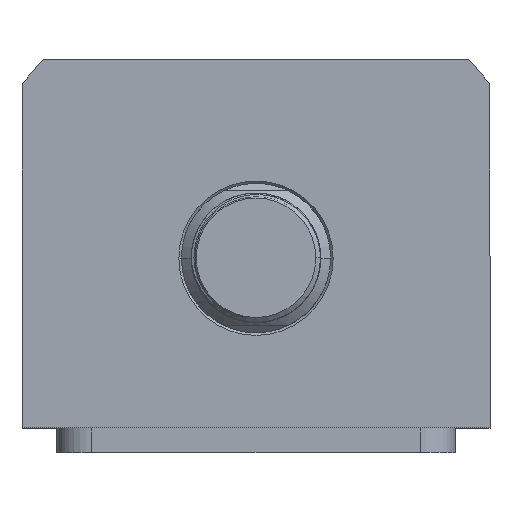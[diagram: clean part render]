
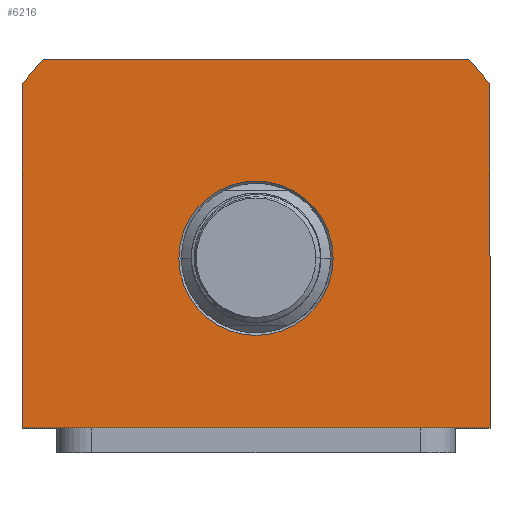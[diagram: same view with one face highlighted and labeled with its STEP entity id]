
A CAD part, top view. The second image highlights one B-rep face of the part: STEP entity #6216.
In plain terms, the highlighted planar face has unit normal (0, 0, 1).
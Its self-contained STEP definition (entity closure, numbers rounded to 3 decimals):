
#495 = VERTEX_POINT ( 'NONE', #11985 ) ;
#762 = LINE ( 'NONE', #18549, #1716 ) ;
#827 = CARTESIAN_POINT ( 'NONE',  ( 42.688, 40., 42.5 ) ) ;
#994 = AXIS2_PLACEMENT_3D ( 'NONE', #16903, #9028, #4498 ) ;
#1116 = CIRCLE ( 'NONE', #994, 58.5 ) ;
#1154 = ORIENTED_EDGE ( 'NONE', *, *, #18902, .T. ) ;
#1314 = DIRECTION ( 'NONE',  ( 1., 0., 0. ) ) ;
#1498 = DIRECTION ( 'NONE',  ( 1., 0., 0. ) ) ;
#1627 = CARTESIAN_POINT ( 'NONE',  ( 0., 0., 42.5 ) ) ;
#1716 = VECTOR ( 'NONE', #12225, 1000. ) ;
#1790 = FACE_BOUND ( 'NONE', #11175, .T. ) ;
#2148 = DIRECTION ( 'NONE',  ( 1., 0., 0. ) ) ;
#2173 = CARTESIAN_POINT ( 'NONE',  ( -47., -34., 42.5 ) ) ;
#2236 = LINE ( 'NONE', #8132, #10096 ) ;
#3530 = CARTESIAN_POINT ( 'NONE',  ( -42.688, 40., 42.5 ) ) ;
#3719 = CIRCLE ( 'NONE', #11581, 15.5 ) ;
#3899 = ORIENTED_EDGE ( 'NONE', *, *, #9227, .T. ) ;
#4071 = ORIENTED_EDGE ( 'NONE', *, *, #11487, .T. ) ;
#4477 = EDGE_CURVE ( 'NONE', #19364, #14779, #8036, .T. ) ;
#4498 = DIRECTION ( 'NONE',  ( 1., 0., 0. ) ) ;
#5515 = EDGE_CURVE ( 'NONE', #19225, #6217, #3719, .T. ) ;
#5577 = VECTOR ( 'NONE', #17267, 1000. ) ;
#5877 = EDGE_CURVE ( 'NONE', #19528, #19364, #13478, .T. ) ;
#6216 = ADVANCED_FACE ( 'NONE', ( #1790, #11801 ), #12949, .T. ) ;
#6217 = VERTEX_POINT ( 'NONE', #13130 ) ;
#6997 = CARTESIAN_POINT ( 'NONE',  ( 0., 0., 42.5 ) ) ;
#8036 = LINE ( 'NONE', #18374, #13053 ) ;
#8132 = CARTESIAN_POINT ( 'NONE',  ( -42.688, 40., 42.5 ) ) ;
#8155 = DIRECTION ( 'NONE',  ( 0., 0., 1. ) ) ;
#8652 = AXIS2_PLACEMENT_3D ( 'NONE', #9622, #8155, #2148 ) ;
#8861 = EDGE_LOOP ( 'NONE', ( #4071, #3899, #18482, #1154, #9306, #14616 ) ) ;
#9028 = DIRECTION ( 'NONE',  ( 0., 0., 1. ) ) ;
#9178 = CARTESIAN_POINT ( 'NONE',  ( 0., 0., 42.5 ) ) ;
#9227 = EDGE_CURVE ( 'NONE', #13864, #495, #17963, .T. ) ;
#9306 = ORIENTED_EDGE ( 'NONE', *, *, #5877, .T. ) ;
#9560 = ORIENTED_EDGE ( 'NONE', *, *, #5515, .T. ) ;
#9569 = ORIENTED_EDGE ( 'NONE', *, *, #10355, .T. ) ;
#9622 = CARTESIAN_POINT ( 'NONE',  ( 0., 0., 42.5 ) ) ;
#10088 = CIRCLE ( 'NONE', #18192, 15.5 ) ;
#10096 = VECTOR ( 'NONE', #18783, 1000. ) ;
#10355 = EDGE_CURVE ( 'NONE', #6217, #19225, #10088, .T. ) ;
#10642 = DIRECTION ( 'NONE',  ( 0., 0., -1. ) ) ;
#10712 = DIRECTION ( 'NONE',  ( 0., 0., -1. ) ) ;
#10887 = CARTESIAN_POINT ( 'NONE',  ( -47., 34.832, 42.5 ) ) ;
#11175 = EDGE_LOOP ( 'NONE', ( #9569, #9560 ) ) ;
#11487 = EDGE_CURVE ( 'NONE', #14779, #13864, #762, .T. ) ;
#11581 = AXIS2_PLACEMENT_3D ( 'NONE', #1627, #10642, #1498 ) ;
#11801 = FACE_OUTER_BOUND ( 'NONE', #8861, .T. ) ;
#11985 = CARTESIAN_POINT ( 'NONE',  ( 47., 34.832, 42.5 ) ) ;
#11999 = CARTESIAN_POINT ( 'NONE',  ( 47., -34., 42.5 ) ) ;
#12225 = DIRECTION ( 'NONE',  ( 1., 0., 0. ) ) ;
#12397 = DIRECTION ( 'NONE',  ( 0., -1., 0. ) ) ;
#12549 = CARTESIAN_POINT ( 'NONE',  ( -15.5, 0., 42.5 ) ) ;
#12949 = PLANE ( 'NONE',  #14774 ) ;
#13053 = VECTOR ( 'NONE', #12397, 1000. ) ;
#13130 = CARTESIAN_POINT ( 'NONE',  ( 15.5, 0., 42.5 ) ) ;
#13478 = CIRCLE ( 'NONE', #8652, 58.5 ) ;
#13864 = VERTEX_POINT ( 'NONE', #11999 ) ;
#14330 = CARTESIAN_POINT ( 'NONE',  ( 47., 34.832, 42.5 ) ) ;
#14473 = DIRECTION ( 'NONE',  ( 0., 0., 1. ) ) ;
#14616 = ORIENTED_EDGE ( 'NONE', *, *, #4477, .T. ) ;
#14774 = AXIS2_PLACEMENT_3D ( 'NONE', #6997, #14473, #17544 ) ;
#14779 = VERTEX_POINT ( 'NONE', #2173 ) ;
#16883 = VERTEX_POINT ( 'NONE', #827 ) ;
#16903 = CARTESIAN_POINT ( 'NONE',  ( 0., 0., 42.5 ) ) ;
#17267 = DIRECTION ( 'NONE',  ( 0., 1., 0. ) ) ;
#17508 = EDGE_CURVE ( 'NONE', #495, #16883, #1116, .T. ) ;
#17544 = DIRECTION ( 'NONE',  ( 1., 0., 0. ) ) ;
#17963 = LINE ( 'NONE', #14330, #5577 ) ;
#18192 = AXIS2_PLACEMENT_3D ( 'NONE', #9178, #10712, #1314 ) ;
#18374 = CARTESIAN_POINT ( 'NONE',  ( -47., -34., 42.5 ) ) ;
#18482 = ORIENTED_EDGE ( 'NONE', *, *, #17508, .T. ) ;
#18549 = CARTESIAN_POINT ( 'NONE',  ( 47., -34., 42.5 ) ) ;
#18783 = DIRECTION ( 'NONE',  ( -1., 0., 0. ) ) ;
#18902 = EDGE_CURVE ( 'NONE', #16883, #19528, #2236, .T. ) ;
#19225 = VERTEX_POINT ( 'NONE', #12549 ) ;
#19364 = VERTEX_POINT ( 'NONE', #10887 ) ;
#19528 = VERTEX_POINT ( 'NONE', #3530 ) ;
